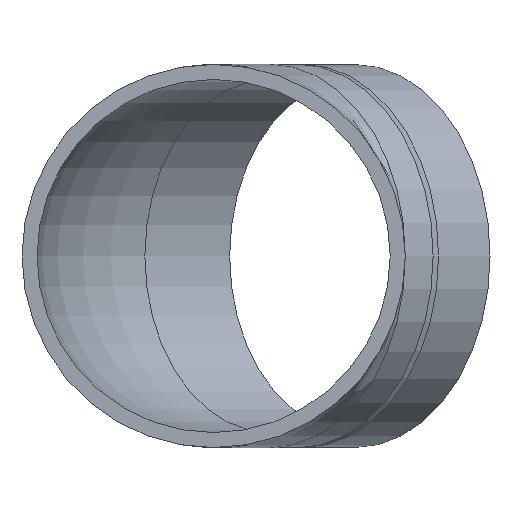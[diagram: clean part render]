
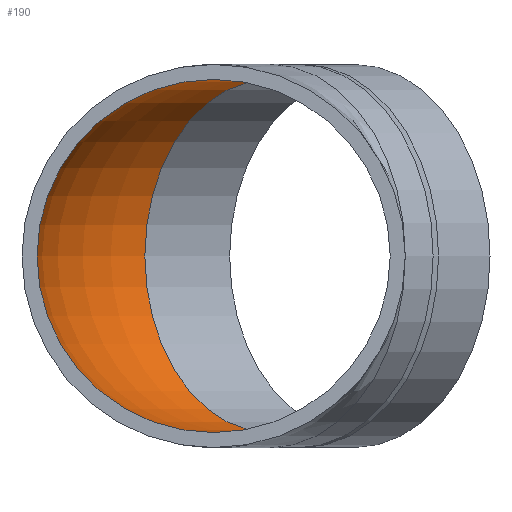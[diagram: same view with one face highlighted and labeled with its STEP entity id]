
A CAD part, front view. The second image highlights one B-rep face of the part: STEP entity #190.
In plain terms, the highlighted toroidal (fillet/blend) face has major radius 62.5 mm and minor radius 57.6 mm.
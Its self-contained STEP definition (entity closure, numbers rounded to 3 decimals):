
#13=TOROIDAL_SURFACE($,#214,62.5,57.6);
#26=FACE_BOUND($,#77,.T.);
#45=CIRCLE($,#213,57.6);
#46=CIRCLE($,#215,57.6);
#60=FACE_OUTER_BOUND($,#76,.T.);
#76=EDGE_LOOP($,(#139));
#77=EDGE_LOOP($,(#140));
#106=VERTEX_POINT($,#353);
#107=VERTEX_POINT($,#356);
#121=EDGE_CURVE($,#106,#106,#45,.T.);
#122=EDGE_CURVE($,#107,#107,#46,.T.);
#139=ORIENTED_EDGE($,*,*,#122,.T.);
#140=ORIENTED_EDGE($,*,*,#121,.F.);
#190=ADVANCED_FACE($,(#60,#26),#13,.F.);
#213=AXIS2_PLACEMENT_3D($,#354,#253,#254);
#214=AXIS2_PLACEMENT_3D($,#355,#255,#256);
#215=AXIS2_PLACEMENT_3D($,#357,#257,#258);
#253=DIRECTION('center_axis',(-0.707,-0.707,0.));
#254=DIRECTION('ref_axis',(0.707,-0.707,0.));
#255=DIRECTION('center_axis',(0.,0.,-1.));
#256=DIRECTION('ref_axis',(-1.,0.,0.));
#257=DIRECTION('center_axis',(0.,-1.,0.));
#258=DIRECTION('ref_axis',(1.,0.,0.));
#353=CARTESIAN_POINT('',(-22.424,124.035,0.));
#354=CARTESIAN_POINT('Origin',(18.306,83.306,0.));
#355=CARTESIAN_POINT('Origin',(62.5,39.112,0.));
#356=CARTESIAN_POINT('',(-57.6,39.112,0.));
#357=CARTESIAN_POINT('Origin',(0.,39.112,0.));
